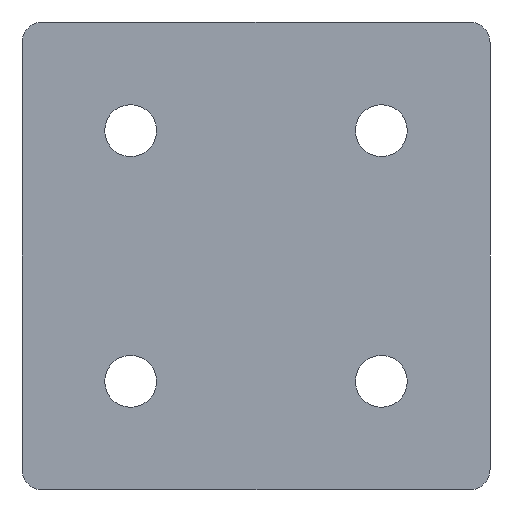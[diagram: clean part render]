
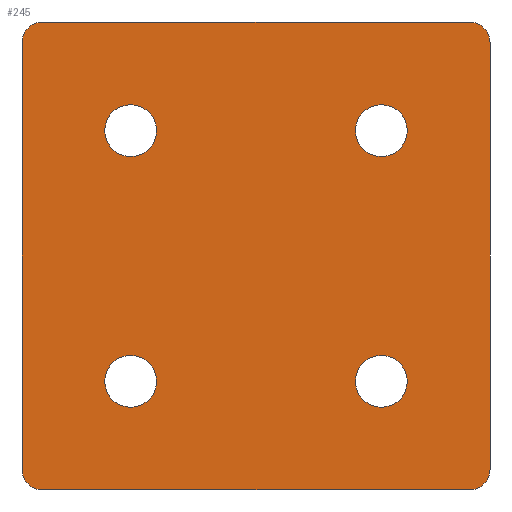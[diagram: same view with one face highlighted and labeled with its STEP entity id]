
A CAD part, front view. The second image highlights one B-rep face of the part: STEP entity #245.
In plain terms, the highlighted planar face has unit normal (0, -1, 0).
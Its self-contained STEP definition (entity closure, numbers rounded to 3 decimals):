
#1 = VERTEX_POINT ( 'NONE', #152 ) ;
#7 = CARTESIAN_POINT ( 'NONE',  ( -25.5, 0., -13. ) ) ;
#8 = EDGE_CURVE ( 'NONE', #547, #336, #66, .T. ) ;
#9 = CIRCLE ( 'NONE', #251, 3.1 ) ;
#12 = CARTESIAN_POINT ( 'NONE',  ( -15., 0., 30. ) ) ;
#14 = EDGE_CURVE ( 'NONE', #315, #67, #243, .T. ) ;
#15 = CIRCLE ( 'NONE', #621, 3.1 ) ;
#18 = CARTESIAN_POINT ( 'NONE',  ( -28., 0., -10.5 ) ) ;
#22 = EDGE_CURVE ( 'NONE', #303, #129, #271, .T. ) ;
#26 = CARTESIAN_POINT ( 'NONE',  ( 25.5, 0., 40.5 ) ) ;
#28 = DIRECTION ( 'NONE',  ( 0., 0., 1. ) ) ;
#33 = PLANE ( 'NONE',  #593 ) ;
#41 = DIRECTION ( 'NONE',  ( -1., 0., 0. ) ) ;
#57 = VECTOR ( 'NONE', #619, 1000. ) ;
#60 = ORIENTED_EDGE ( 'NONE', *, *, #553, .T. ) ;
#66 = CIRCLE ( 'NONE', #86, 2.5 ) ;
#67 = VERTEX_POINT ( 'NONE', #199 ) ;
#73 = DIRECTION ( 'NONE',  ( 0., 0., 1. ) ) ;
#80 = CIRCLE ( 'NONE', #458, 3.1 ) ;
#84 = FACE_BOUND ( 'NONE', #529, .T. ) ;
#86 = AXIS2_PLACEMENT_3D ( 'NONE', #468, #257, #638 ) ;
#89 = VERTEX_POINT ( 'NONE', #323 ) ;
#90 = EDGE_CURVE ( 'NONE', #1, #603, #15, .T. ) ;
#94 = CIRCLE ( 'NONE', #131, 3.1 ) ;
#99 = AXIS2_PLACEMENT_3D ( 'NONE', #26, #352, #402 ) ;
#101 = CARTESIAN_POINT ( 'NONE',  ( 28., 0., 40.5 ) ) ;
#103 = ORIENTED_EDGE ( 'NONE', *, *, #14, .T. ) ;
#105 = ORIENTED_EDGE ( 'NONE', *, *, #324, .T. ) ;
#116 = LINE ( 'NONE', #412, #649 ) ;
#117 = VERTEX_POINT ( 'NONE', #259 ) ;
#125 = ORIENTED_EDGE ( 'NONE', *, *, #485, .F. ) ;
#129 = VERTEX_POINT ( 'NONE', #582 ) ;
#131 = AXIS2_PLACEMENT_3D ( 'NONE', #386, #266, #641 ) ;
#137 = VECTOR ( 'NONE', #356, 1000. ) ;
#138 = ORIENTED_EDGE ( 'NONE', *, *, #285, .F. ) ;
#152 = CARTESIAN_POINT ( 'NONE',  ( -15., 0., 3.1 ) ) ;
#167 = ORIENTED_EDGE ( 'NONE', *, *, #395, .T. ) ;
#169 = CIRCLE ( 'NONE', #375, 3.1 ) ;
#177 = ORIENTED_EDGE ( 'NONE', *, *, #90, .T. ) ;
#178 = CARTESIAN_POINT ( 'NONE',  ( -25.5, 0., 43. ) ) ;
#188 = VERTEX_POINT ( 'NONE', #666 ) ;
#192 = EDGE_CURVE ( 'NONE', #303, #503, #269, .T. ) ;
#199 = CARTESIAN_POINT ( 'NONE',  ( -28., 0., 40.5 ) ) ;
#206 = ORIENTED_EDGE ( 'NONE', *, *, #653, .T. ) ;
#210 = EDGE_CURVE ( 'NONE', #89, #188, #435, .T. ) ;
#219 = CARTESIAN_POINT ( 'NONE',  ( 25.5, 0., -10.5 ) ) ;
#224 = AXIS2_PLACEMENT_3D ( 'NONE', #658, #424, #366 ) ;
#229 = CARTESIAN_POINT ( 'NONE',  ( -15., 0., 0. ) ) ;
#232 = CARTESIAN_POINT ( 'NONE',  ( 15., 0., 0. ) ) ;
#236 = EDGE_CURVE ( 'NONE', #287, #273, #9, .T. ) ;
#241 = DIRECTION ( 'NONE',  ( 0., 0., -1. ) ) ;
#243 = CIRCLE ( 'NONE', #391, 2.5 ) ;
#245 = ADVANCED_FACE ( 'NONE', ( #84, #575, #327, #363, #252 ), #33, .T. ) ;
#251 = AXIS2_PLACEMENT_3D ( 'NONE', #664, #517, #572 ) ;
#252 = FACE_OUTER_BOUND ( 'NONE', #507, .T. ) ;
#254 = CARTESIAN_POINT ( 'NONE',  ( 15., 0., 30. ) ) ;
#255 = AXIS2_PLACEMENT_3D ( 'NONE', #12, #573, #28 ) ;
#257 = DIRECTION ( 'NONE',  ( 0., -1., 0. ) ) ;
#259 = CARTESIAN_POINT ( 'NONE',  ( 15., 0., 3.1 ) ) ;
#260 = CARTESIAN_POINT ( 'NONE',  ( 15., 0., -3.1 ) ) ;
#265 = AXIS2_PLACEMENT_3D ( 'NONE', #219, #314, #377 ) ;
#266 = DIRECTION ( 'NONE',  ( 0., 1., 0. ) ) ;
#269 = CIRCLE ( 'NONE', #99, 2.5 ) ;
#271 = LINE ( 'NONE', #662, #137 ) ;
#273 = VERTEX_POINT ( 'NONE', #624 ) ;
#279 = DIRECTION ( 'NONE',  ( 0., 0., 1. ) ) ;
#282 = CARTESIAN_POINT ( 'NONE',  ( 15., 0., 0. ) ) ;
#285 = EDGE_CURVE ( 'NONE', #354, #336, #116, .T. ) ;
#287 = VERTEX_POINT ( 'NONE', #465 ) ;
#301 = CARTESIAN_POINT ( 'NONE',  ( -25.5, 0., 40.5 ) ) ;
#303 = VERTEX_POINT ( 'NONE', #101 ) ;
#314 = DIRECTION ( 'NONE',  ( 0., -1., 0. ) ) ;
#315 = VERTEX_POINT ( 'NONE', #178 ) ;
#317 = DIRECTION ( 'NONE',  ( 0., 0., 1. ) ) ;
#323 = CARTESIAN_POINT ( 'NONE',  ( -15., 0., 33.1 ) ) ;
#324 = EDGE_CURVE ( 'NONE', #603, #1, #94, .T. ) ;
#327 = FACE_BOUND ( 'NONE', #520, .T. ) ;
#335 = ORIENTED_EDGE ( 'NONE', *, *, #22, .F. ) ;
#336 = VERTEX_POINT ( 'NONE', #7 ) ;
#346 = ORIENTED_EDGE ( 'NONE', *, *, #210, .T. ) ;
#349 = CIRCLE ( 'NONE', #509, 3.1 ) ;
#352 = DIRECTION ( 'NONE',  ( 0., -1., 0. ) ) ;
#354 = VERTEX_POINT ( 'NONE', #538 ) ;
#355 = CARTESIAN_POINT ( 'NONE',  ( -28., 0., -13. ) ) ;
#356 = DIRECTION ( 'NONE',  ( 0., 0., -1. ) ) ;
#359 = ORIENTED_EDGE ( 'NONE', *, *, #574, .T. ) ;
#363 = FACE_BOUND ( 'NONE', #530, .T. ) ;
#366 = DIRECTION ( 'NONE',  ( 0., 0., 1. ) ) ;
#375 = AXIS2_PLACEMENT_3D ( 'NONE', #232, #555, #73 ) ;
#377 = DIRECTION ( 'NONE',  ( 0., 0., -1. ) ) ;
#379 = EDGE_CURVE ( 'NONE', #315, #503, #556, .T. ) ;
#386 = CARTESIAN_POINT ( 'NONE',  ( -15., 0., 0. ) ) ;
#391 = AXIS2_PLACEMENT_3D ( 'NONE', #301, #516, #241 ) ;
#395 = EDGE_CURVE ( 'NONE', #188, #89, #500, .T. ) ;
#397 = DIRECTION ( 'NONE',  ( 0., 0., 1. ) ) ;
#402 = DIRECTION ( 'NONE',  ( 0., 0., -1. ) ) ;
#407 = ORIENTED_EDGE ( 'NONE', *, *, #8, .T. ) ;
#412 = CARTESIAN_POINT ( 'NONE',  ( 28., 0., -13. ) ) ;
#423 = CARTESIAN_POINT ( 'NONE',  ( -15., 0., -3.1 ) ) ;
#424 = DIRECTION ( 'NONE',  ( 0., 1., 0. ) ) ;
#427 = ORIENTED_EDGE ( 'NONE', *, *, #236, .T. ) ;
#434 = CARTESIAN_POINT ( 'NONE',  ( -28., 0., 43. ) ) ;
#435 = CIRCLE ( 'NONE', #224, 3.1 ) ;
#458 = AXIS2_PLACEMENT_3D ( 'NONE', #254, #524, #317 ) ;
#465 = CARTESIAN_POINT ( 'NONE',  ( 15., 0., 33.1 ) ) ;
#467 = DIRECTION ( 'NONE',  ( 0., 0., -1. ) ) ;
#468 = CARTESIAN_POINT ( 'NONE',  ( -25.5, 0., -10.5 ) ) ;
#485 = EDGE_CURVE ( 'NONE', #547, #67, #541, .T. ) ;
#488 = DIRECTION ( 'NONE',  ( 1., 0., 0. ) ) ;
#499 = DIRECTION ( 'NONE',  ( 0., 1., 0. ) ) ;
#500 = CIRCLE ( 'NONE', #255, 3.1 ) ;
#503 = VERTEX_POINT ( 'NONE', #508 ) ;
#507 = EDGE_LOOP ( 'NONE', ( #335, #567, #646, #103, #125, #407, #138, #206 ) ) ;
#508 = CARTESIAN_POINT ( 'NONE',  ( 25.5, 0., 43. ) ) ;
#509 = AXIS2_PLACEMENT_3D ( 'NONE', #282, #499, #397 ) ;
#516 = DIRECTION ( 'NONE',  ( 0., -1., 0. ) ) ;
#517 = DIRECTION ( 'NONE',  ( 0., 1., 0. ) ) ;
#520 = EDGE_LOOP ( 'NONE', ( #359, #60 ) ) ;
#523 = ORIENTED_EDGE ( 'NONE', *, *, #671, .T. ) ;
#524 = DIRECTION ( 'NONE',  ( 0., 1., 0. ) ) ;
#529 = EDGE_LOOP ( 'NONE', ( #427, #523 ) ) ;
#530 = EDGE_LOOP ( 'NONE', ( #177, #105 ) ) ;
#538 = CARTESIAN_POINT ( 'NONE',  ( 25.5, 0., -13. ) ) ;
#541 = LINE ( 'NONE', #355, #57 ) ;
#547 = VERTEX_POINT ( 'NONE', #18 ) ;
#553 = EDGE_CURVE ( 'NONE', #628, #117, #349, .T. ) ;
#555 = DIRECTION ( 'NONE',  ( 0., 1., 0. ) ) ;
#556 = LINE ( 'NONE', #434, #670 ) ;
#567 = ORIENTED_EDGE ( 'NONE', *, *, #192, .T. ) ;
#570 = EDGE_LOOP ( 'NONE', ( #346, #167 ) ) ;
#572 = DIRECTION ( 'NONE',  ( 0., 0., 1. ) ) ;
#573 = DIRECTION ( 'NONE',  ( 0., 1., 0. ) ) ;
#574 = EDGE_CURVE ( 'NONE', #117, #628, #169, .T. ) ;
#575 = FACE_BOUND ( 'NONE', #570, .T. ) ;
#579 = CIRCLE ( 'NONE', #265, 2.5 ) ;
#582 = CARTESIAN_POINT ( 'NONE',  ( 28., 0., -10.5 ) ) ;
#593 = AXIS2_PLACEMENT_3D ( 'NONE', #630, #669, #467 ) ;
#600 = DIRECTION ( 'NONE',  ( 0., 1., 0. ) ) ;
#603 = VERTEX_POINT ( 'NONE', #423 ) ;
#619 = DIRECTION ( 'NONE',  ( 0., 0., 1. ) ) ;
#621 = AXIS2_PLACEMENT_3D ( 'NONE', #229, #600, #279 ) ;
#624 = CARTESIAN_POINT ( 'NONE',  ( 15., 0., 26.9 ) ) ;
#628 = VERTEX_POINT ( 'NONE', #260 ) ;
#630 = CARTESIAN_POINT ( 'NONE',  ( 0., 0., 0. ) ) ;
#638 = DIRECTION ( 'NONE',  ( 0., 0., -1. ) ) ;
#641 = DIRECTION ( 'NONE',  ( 0., 0., 1. ) ) ;
#646 = ORIENTED_EDGE ( 'NONE', *, *, #379, .F. ) ;
#649 = VECTOR ( 'NONE', #41, 1000. ) ;
#653 = EDGE_CURVE ( 'NONE', #354, #129, #579, .T. ) ;
#658 = CARTESIAN_POINT ( 'NONE',  ( -15., 0., 30. ) ) ;
#662 = CARTESIAN_POINT ( 'NONE',  ( 28., 0., 43. ) ) ;
#664 = CARTESIAN_POINT ( 'NONE',  ( 15., 0., 30. ) ) ;
#666 = CARTESIAN_POINT ( 'NONE',  ( -15., 0., 26.9 ) ) ;
#669 = DIRECTION ( 'NONE',  ( 0., -1., 0. ) ) ;
#670 = VECTOR ( 'NONE', #488, 1000. ) ;
#671 = EDGE_CURVE ( 'NONE', #273, #287, #80, .T. ) ;
